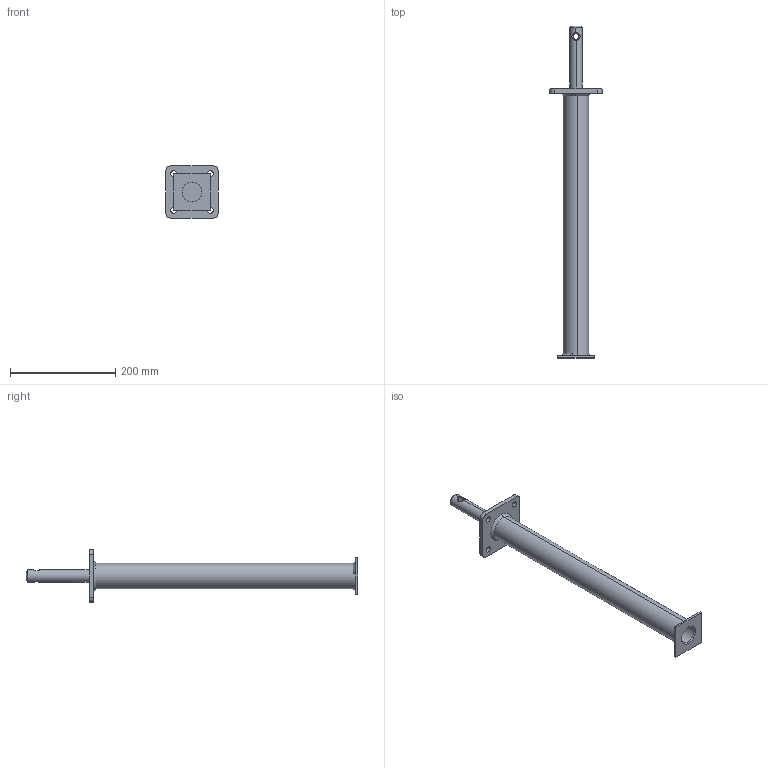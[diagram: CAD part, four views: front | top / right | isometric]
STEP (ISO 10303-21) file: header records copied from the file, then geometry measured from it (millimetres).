
FILE_DESCRIPTION (( 'STEP AP203' ), '1' );
FILE_NAME ('19820220.STEP', '2021-04-20T09:34:15', ( '' ), ( '' ), 'SwSTEP 2.0', 'SolidWorks 2013', '' );
FILE_SCHEMA (( 'CONFIG_CONTROL_DESIGN' ));
Length unit declared in the file: millimetre
Products named in the file (7): 24x120; 70x70x4; Schweissnaht-d48mm-O; Standrohr-48,3x500x3,25; Schweissnaht-d48mm-25mm; 19820220; 100x100x8-4xd11-abgerundet
Assembly tree (7 placements, depth 2):
  19820220
    70x70x4
    100x100x8-4xd11-abgerundet
    24x120
    Schweissnaht-d48mm-25mm  x2
    Schweissnaht-d48mm-O
    Standrohr-48,3x500x3,25
Bounding box: 100 x 632 x 100 mm (x, y, z)
Volume: 375960.5 mm3; surface area: 188909 mm2
Topology: 7 solids, 7 shells, 61 faces, 145 edges, 95 vertices
Faces by surface type: cylinder 26, plane 23, bspline 10, cone 2
Entity records: 5056 total; most frequent: CARTESIAN_POINT 3037, ORIENTED_EDGE 260, DIRECTION 260, EDGE_CURVE 130, AXIS2_PLACEMENT_3D 102, VERTEX_POINT 85, EDGE_LOOP 67, PERSON_AND_ORGANIZATION 63
